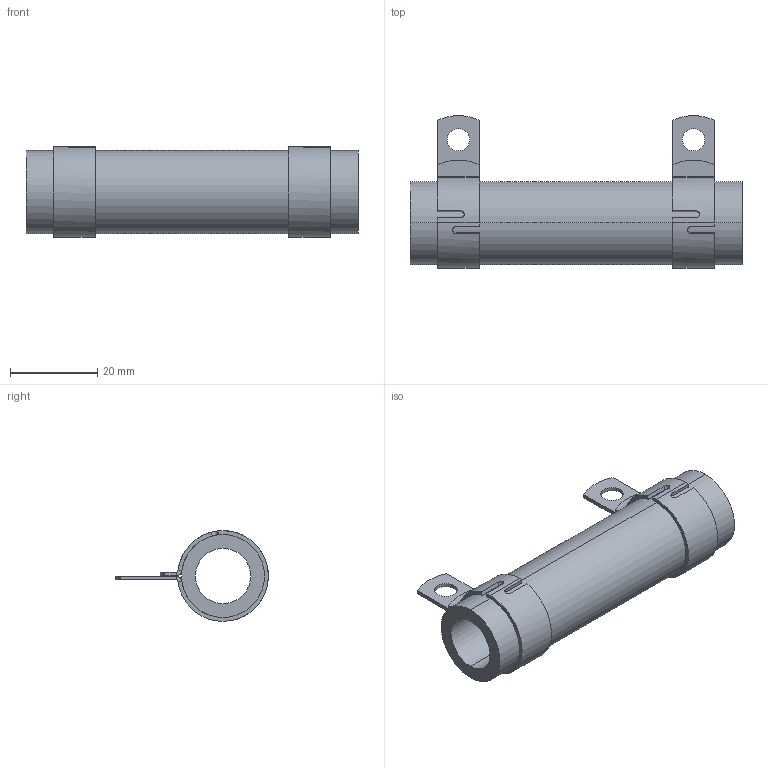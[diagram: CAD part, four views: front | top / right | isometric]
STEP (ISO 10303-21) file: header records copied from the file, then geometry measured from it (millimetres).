
FILE_DESCRIPTION (( 'STEP AP203' ), '1' );
FILE_NAME ('RBEF0075xxxxxKFB00.STEP', '2014-04-04T18:28:18', ( '' ), ( '' ), 'SwSTEP 2.0', 'SolidWorks 2012', '' );
FILE_SCHEMA (( 'CONFIG_CONTROL_DESIGN' ));
Length unit declared in the file: millimetre
Products named in the file (3): RBEF0075xxxxxKFB00; DAL15-160-XXX_DAL15-160-912-CLOSED; DAL013-04_DAL013-113
Assembly tree (3 placements, depth 2):
  RBEF0075xxxxxKFB00
    DAL013-04_DAL013-113
    DAL15-160-XXX_DAL15-160-912-CLOSED  x2
Bounding box: 76.2 x 35.06 x 20.83 mm (x, y, z)
Volume: 13344.4 mm3; surface area: 11176.1 mm2
Topology: 3 solids, 3 shells, 80 faces, 190 edges, 116 vertices
Faces by surface type: plane 42, cylinder 34, bspline 4
Entity records: 1706 total; most frequent: CARTESIAN_POINT 366, DIRECTION 229, ORIENTED_EDGE 202, EDGE_CURVE 101, AXIS2_PLACEMENT_3D 89, VERTEX_POINT 62, VECTOR 51, LINE 51
